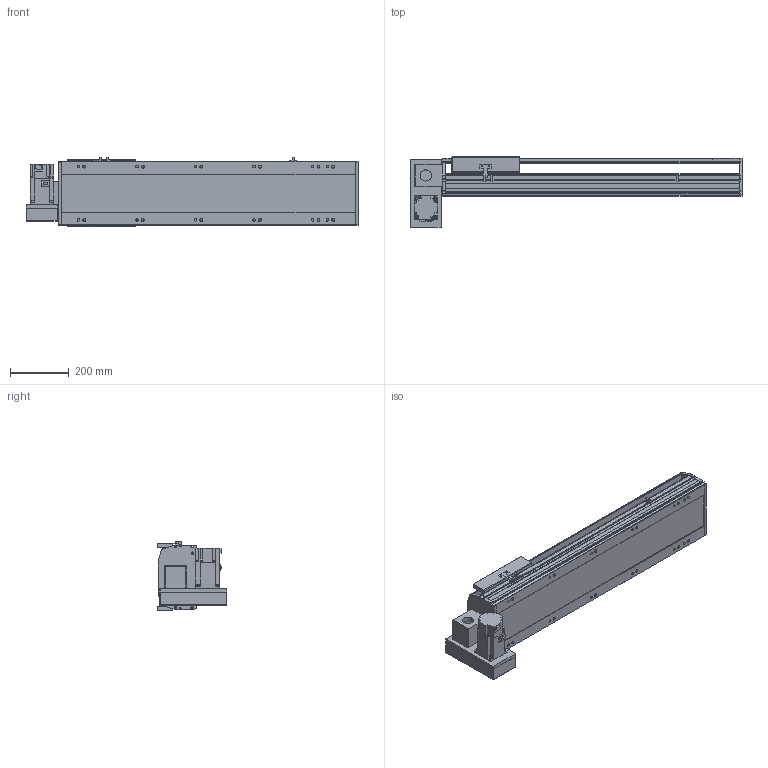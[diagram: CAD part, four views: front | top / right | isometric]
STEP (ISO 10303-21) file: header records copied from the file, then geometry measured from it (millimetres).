
FILE_DESCRIPTION(/* description */ ('STEP AP214'),/* implementation_level */ '2;1');
FILE_NAME(/* name */ 'PBS220-P40-S650-LD-T75-C1-N(0)',/* time_stamp */ '2022-06-27T09:43:13+02:00',/* author */ ('License CC BY-ND 4.0'),/* organization */ ('CADENAS'),/* preprocessor_version */ 'ST-DEVELOPER v18.102',/* originating_system */ 'PARTsolutions',/* authorisation */ ' ');
FILE_SCHEMA (('AUTOMOTIVE_DESIGN {1 0 10303 214 3 1 1}'));
Length unit declared in the file: millimetre
Products named in the file (7): PBS220-P40-S650-LD-T75-C1-N(0); PBS220_sensor; PBS220_plant; PBS220_sliser; T75-p1; PBS220T-LD_motors; PBS220-S650()_body
Assembly tree (8 placements, depth 2):
  PBS220-P40-S650-LD-T75-C1-N(0)
    PBS220_sensor  x3
    PBS220_plant
    PBS220_sliser
    T75-p1
    PBS220T-LD_motors
    PBS220-S650()_body
Bounding box: 1134 x 239 x 238.5 mm (x, y, z)
Volume: 16738907 mm3; surface area: 1700720.9 mm2
Topology: 8 solids, 8 shells, 890 faces, 2340 edges, 1522 vertices
Faces by surface type: plane 590, cylinder 264, cone 36
Full cylindrical faces by diameter (mm): 2.013 x4, 4.5 x14, 4.917 x4, 6 x7, 6.647 x8, 8 x10, 8.376 x12, 8.5 x12, 10 x6, 14 x12, 38 x2, 40 x1, 70 x1
Entity records: 25004 total; most frequent: CARTESIAN_POINT 4360, DIRECTION 4347, ORIENTED_EDGE 4034, EDGE_CURVE 2017, AXIS2_PLACEMENT_3D 1503, VERTEX_POINT 1384, LINE 1341, VECTOR 1341
